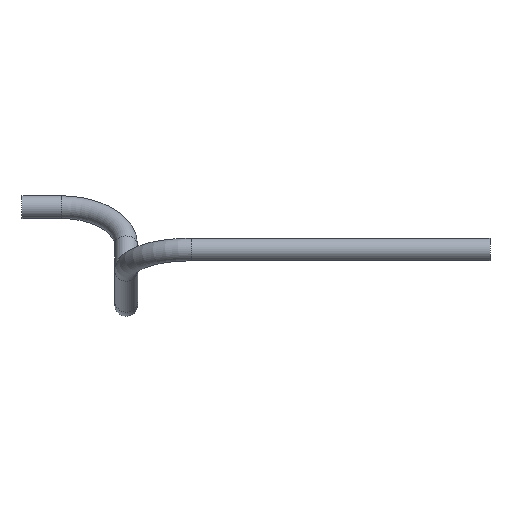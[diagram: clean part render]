
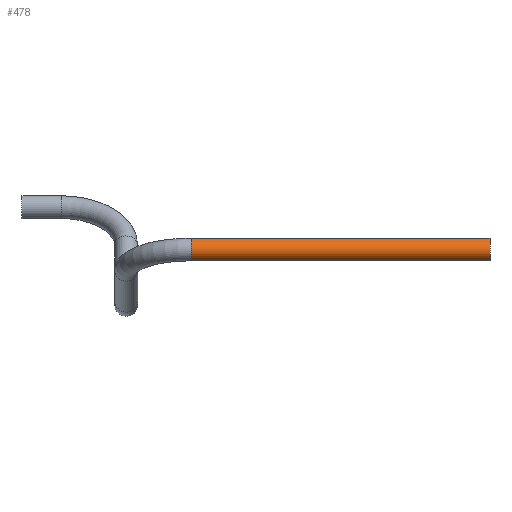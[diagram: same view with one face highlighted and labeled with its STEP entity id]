
A CAD part, front view. The second image highlights one B-rep face of the part: STEP entity #478.
In plain terms, the highlighted cylindrical face has radius 0.525 mm (diameter 1.05 mm), a full revolution.
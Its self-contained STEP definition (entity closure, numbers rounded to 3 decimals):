
#412 = TOROIDAL_SURFACE('',#413,3.,0.525);
#413 = AXIS2_PLACEMENT_3D('',#414,#415,#416);
#414 = CARTESIAN_POINT('',(-20.,-41.66,-9.866));
#415 = DIRECTION('',(0.,0.322,0.947));
#416 = DIRECTION('',(-1.,0.,0.));
#429 = VERTEX_POINT('',#430);
#430 = CARTESIAN_POINT('',(-20.,-44.072,-8.595));
#451 = EDGE_CURVE('',#429,#429,#452,.T.);
#452 = SURFACE_CURVE('',#453,(#458,#465),.PCURVE_S1.);
#453 = CIRCLE('',#454,0.525);
#454 = AXIS2_PLACEMENT_3D('',#455,#456,#457);
#455 = CARTESIAN_POINT('',(-20.,-44.5,-8.9));
#456 = DIRECTION('',(-1.,0.,0.));
#457 = DIRECTION('',(0.,-0.947,0.322)
  );
#458 = PCURVE('',#412,#459);
#459 = DEFINITIONAL_REPRESENTATION('',(#460),#464);
#460 = LINE('',#461,#462);
#461 = CARTESIAN_POINT('',(1.571,0.));
#462 = VECTOR('',#463,1.);
#463 = DIRECTION('',(0.,1.));
#464 = ( GEOMETRIC_REPRESENTATION_CONTEXT(2) 
PARAMETRIC_REPRESENTATION_CONTEXT() REPRESENTATION_CONTEXT('2D SPACE',''
  ) );
#465 = PCURVE('',#466,#471);
#466 = CYLINDRICAL_SURFACE('',#467,0.525);
#467 = AXIS2_PLACEMENT_3D('',#468,#469,#470);
#468 = CARTESIAN_POINT('',(-20.,-44.5,-8.9));
#469 = DIRECTION('',(1.,0.,0.));
#470 = DIRECTION('',(-0.,0.814,0.58));
#471 = DEFINITIONAL_REPRESENTATION('',(#472),#475);
#472 = B_SPLINE_CURVE_WITH_KNOTS('',1,(#473,#474),.UNSPECIFIED.,.F.,.F.,
  (2,2),(2.195,8.478),.PIECEWISE_BEZIER_KNOTS.);
#473 = CARTESIAN_POINT('',(6.283,0.));
#474 = CARTESIAN_POINT('',(0.,0.));
#475 = ( GEOMETRIC_REPRESENTATION_CONTEXT(2) 
PARAMETRIC_REPRESENTATION_CONTEXT() REPRESENTATION_CONTEXT('2D SPACE',''
  ) );
#478 = ADVANCED_FACE('',(#479),#466,.T.);
#479 = FACE_BOUND('',#480,.T.);
#480 = EDGE_LOOP('',(#481,#503,#530,#531));
#481 = ORIENTED_EDGE('',*,*,#482,.T.);
#482 = EDGE_CURVE('',#429,#483,#485,.T.);
#483 = VERTEX_POINT('',#484);
#484 = CARTESIAN_POINT('',(-6.25,-44.072,-8.595));
#485 = SEAM_CURVE('',#486,(#490,#496),.PCURVE_S1.);
#486 = LINE('',#487,#488);
#487 = CARTESIAN_POINT('',(-20.,-44.072,-8.595));
#488 = VECTOR('',#489,1.);
#489 = DIRECTION('',(1.,0.,0.));
#490 = PCURVE('',#466,#491);
#491 = DEFINITIONAL_REPRESENTATION('',(#492),#495);
#492 = B_SPLINE_CURVE_WITH_KNOTS('',1,(#493,#494),.UNSPECIFIED.,.F.,.F.,
  (2,2),(0.,13.75),.PIECEWISE_BEZIER_KNOTS.);
#493 = CARTESIAN_POINT('',(6.283,0.));
#494 = CARTESIAN_POINT('',(6.283,13.75));
#495 = ( GEOMETRIC_REPRESENTATION_CONTEXT(2) 
PARAMETRIC_REPRESENTATION_CONTEXT() REPRESENTATION_CONTEXT('2D SPACE',''
  ) );
#496 = PCURVE('',#466,#497);
#497 = DEFINITIONAL_REPRESENTATION('',(#498),#502);
#498 = LINE('',#499,#500);
#499 = CARTESIAN_POINT('',(0.,0.));
#500 = VECTOR('',#501,1.);
#501 = DIRECTION('',(0.,1.));
#502 = ( GEOMETRIC_REPRESENTATION_CONTEXT(2) 
PARAMETRIC_REPRESENTATION_CONTEXT() REPRESENTATION_CONTEXT('2D SPACE',''
  ) );
#503 = ORIENTED_EDGE('',*,*,#504,.F.);
#504 = EDGE_CURVE('',#483,#483,#505,.T.);
#505 = SURFACE_CURVE('',#506,(#511,#518),.PCURVE_S1.);
#506 = CIRCLE('',#507,0.525);
#507 = AXIS2_PLACEMENT_3D('',#508,#509,#510);
#508 = CARTESIAN_POINT('',(-6.25,-44.5,-8.9));
#509 = DIRECTION('',(1.,0.,0.));
#510 = DIRECTION('',(-0.,0.814,0.58));
#511 = PCURVE('',#466,#512);
#512 = DEFINITIONAL_REPRESENTATION('',(#513),#517);
#513 = LINE('',#514,#515);
#514 = CARTESIAN_POINT('',(0.,13.75));
#515 = VECTOR('',#516,1.);
#516 = DIRECTION('',(1.,0.));
#517 = ( GEOMETRIC_REPRESENTATION_CONTEXT(2) 
PARAMETRIC_REPRESENTATION_CONTEXT() REPRESENTATION_CONTEXT('2D SPACE',''
  ) );
#518 = PCURVE('',#519,#524);
#519 = PLANE('',#520);
#520 = AXIS2_PLACEMENT_3D('',#521,#522,#523);
#521 = CARTESIAN_POINT('',(-6.25,-44.5,-8.9));
#522 = DIRECTION('',(1.,0.,0.));
#523 = DIRECTION('',(-0.,0.,1.));
#524 = DEFINITIONAL_REPRESENTATION('',(#525),#529);
#525 = CIRCLE('',#526,0.525);
#526 = AXIS2_PLACEMENT_2D('',#527,#528);
#527 = CARTESIAN_POINT('',(0.,0.));
#528 = DIRECTION('',(0.58,-0.814));
#529 = ( GEOMETRIC_REPRESENTATION_CONTEXT(2) 
PARAMETRIC_REPRESENTATION_CONTEXT() REPRESENTATION_CONTEXT('2D SPACE',''
  ) );
#530 = ORIENTED_EDGE('',*,*,#482,.F.);
#531 = ORIENTED_EDGE('',*,*,#451,.F.);
